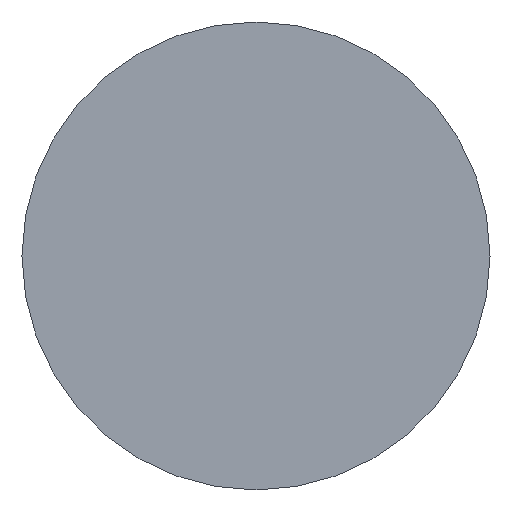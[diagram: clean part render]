
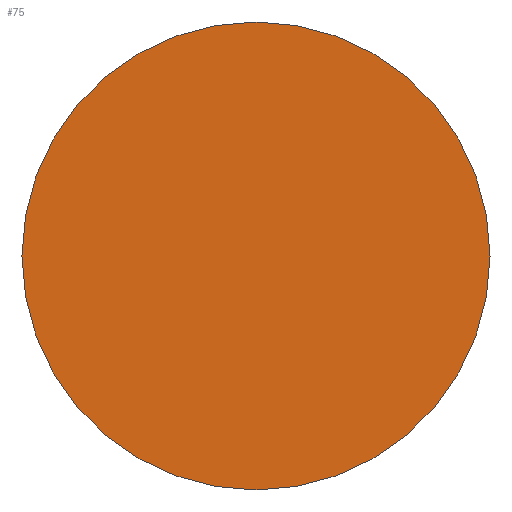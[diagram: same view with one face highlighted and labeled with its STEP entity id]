
A CAD part, front view. The second image highlights one B-rep face of the part: STEP entity #75.
In plain terms, the highlighted planar face has unit normal (0, -1, 0).
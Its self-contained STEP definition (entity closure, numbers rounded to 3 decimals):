
#66 = EDGE_CURVE ( 'NONE', #101, #83, #332, .T. ) ;
#67 = EDGE_LOOP ( 'NONE', ( #76, #77 ) ) ;
#75 = ADVANCED_FACE ( 'NONE', ( #455 ), #454, .F. ) ;
#76 = ORIENTED_EDGE ( 'NONE', *, *, #66, .F. ) ;
#77 = ORIENTED_EDGE ( 'NONE', *, *, #100, .F. ) ;
#83 = VERTEX_POINT ( 'NONE', #439 ) ;
#100 = EDGE_CURVE ( 'NONE', #83, #101, #425, .T. ) ;
#101 = VERTEX_POINT ( 'NONE', #420 ) ;
#330 = CARTESIAN_POINT ( 'NONE',  ( 0., 0., 0. ) ) ;
#331 = AXIS2_PLACEMENT_3D ( 'NONE', #330, #388, #387 ) ;
#332 = CIRCLE ( 'NONE', #331, 12. ) ;
#387 = DIRECTION ( 'NONE',  ( 0., 0., 1. ) ) ;
#388 = DIRECTION ( 'NONE',  ( 0., 1., 0. ) ) ;
#420 = CARTESIAN_POINT ( 'NONE',  ( 0., 0., -12. ) ) ;
#421 = DIRECTION ( 'NONE',  ( 0., 0., 1. ) ) ;
#422 = DIRECTION ( 'NONE',  ( 0., 1., 0. ) ) ;
#423 = CARTESIAN_POINT ( 'NONE',  ( 0., 0., 0. ) ) ;
#424 = AXIS2_PLACEMENT_3D ( 'NONE', #423, #422, #421 ) ;
#425 = CIRCLE ( 'NONE', #424, 12. ) ;
#439 = CARTESIAN_POINT ( 'NONE',  ( 0., 0., 12. ) ) ;
#449 = DIRECTION ( 'NONE',  ( 0., 0., 1. ) ) ;
#450 = DIRECTION ( 'NONE',  ( 0., 1., 0. ) ) ;
#451 = CARTESIAN_POINT ( 'NONE',  ( 0., 0., 0. ) ) ;
#452 = AXIS2_PLACEMENT_3D ( 'NONE', #451, #450, #449 ) ;
#454 = PLANE ( 'NONE',  #452 ) ;
#455 = FACE_OUTER_BOUND ( 'NONE', #67, .T. ) ;
